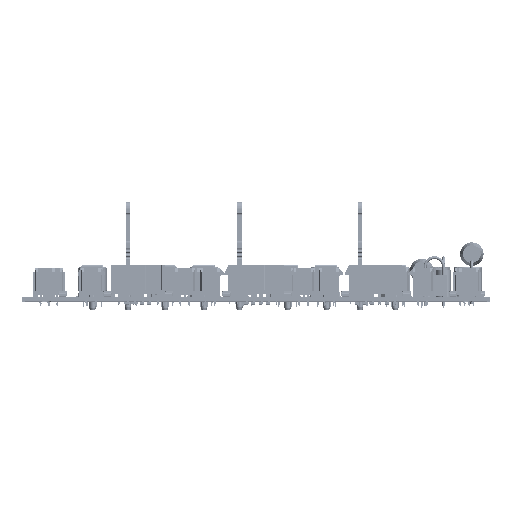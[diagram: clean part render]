
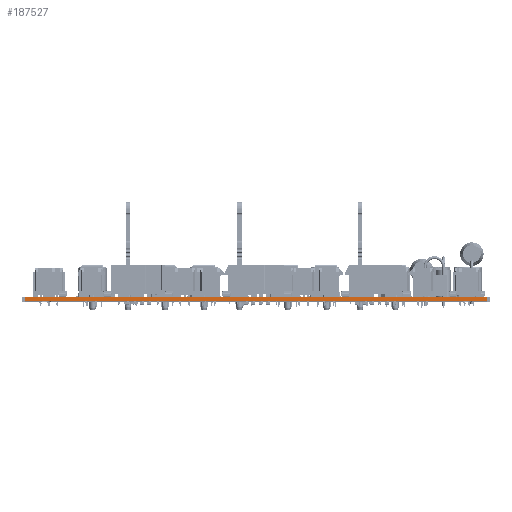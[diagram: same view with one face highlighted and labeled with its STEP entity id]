
A CAD part, top view. The second image highlights one B-rep face of the part: STEP entity #187527.
In plain terms, the highlighted planar face has unit normal (0, 0, 1).
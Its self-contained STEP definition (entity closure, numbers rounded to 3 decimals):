
#7749 = VERTEX_POINT ( 'NONE', #95336 ) ;
#15692 = DIRECTION ( 'NONE',  ( 0., -1., 0. ) ) ;
#18003 = VECTOR ( 'NONE', #143832, 1000. ) ;
#21748 = EDGE_LOOP ( 'NONE', ( #118412, #180969, #189038, #53205 ) ) ;
#24647 = VECTOR ( 'NONE', #81680, 1000. ) ;
#36138 = VECTOR ( 'NONE', #15692, 1000. ) ;
#40260 = CARTESIAN_POINT ( 'NONE',  ( 158.999, 2.58, 0. ) ) ;
#40342 = EDGE_CURVE ( 'NONE', #7749, #59021, #110040, .T. ) ;
#48976 = VERTEX_POINT ( 'NONE', #188314 ) ;
#53205 = ORIENTED_EDGE ( 'NONE', *, *, #102502, .T. ) ;
#59021 = VERTEX_POINT ( 'NONE', #123317 ) ;
#61086 = CARTESIAN_POINT ( 'NONE',  ( 1.001, 2.58, 0. ) ) ;
#64275 = CARTESIAN_POINT ( 'NONE',  ( 1.001, 2.58, 0. ) ) ;
#76264 = DIRECTION ( 'NONE',  ( -1., 0., 0. ) ) ;
#81680 = DIRECTION ( 'NONE',  ( 1., 0., 0. ) ) ;
#82771 = CARTESIAN_POINT ( 'NONE',  ( 1.001, 2.58, 0. ) ) ;
#87469 = EDGE_CURVE ( 'NONE', #48976, #140390, #179305, .T. ) ;
#95336 = CARTESIAN_POINT ( 'NONE',  ( 1.001, 0.98, 0. ) ) ;
#102502 = EDGE_CURVE ( 'NONE', #48976, #7749, #144026, .T. ) ;
#103719 = VECTOR ( 'NONE', #170423, 1000. ) ;
#106513 = CARTESIAN_POINT ( 'NONE',  ( 158.999, 2.58, 0. ) ) ;
#107320 = LINE ( 'NONE', #106513, #36138 ) ;
#110040 = LINE ( 'NONE', #126784, #24647 ) ;
#118412 = ORIENTED_EDGE ( 'NONE', *, *, #40342, .T. ) ;
#123317 = CARTESIAN_POINT ( 'NONE',  ( 158.999, 0.98, 0. ) ) ;
#126611 = FACE_OUTER_BOUND ( 'NONE', #21748, .T. ) ;
#126784 = CARTESIAN_POINT ( 'NONE',  ( 1.001, 0.98, 0. ) ) ;
#129623 = AXIS2_PLACEMENT_3D ( 'NONE', #61086, #167181, #76264 ) ;
#140390 = VERTEX_POINT ( 'NONE', #40260 ) ;
#143832 = DIRECTION ( 'NONE',  ( 1., 0., 0. ) ) ;
#144026 = LINE ( 'NONE', #64275, #103719 ) ;
#167181 = DIRECTION ( 'NONE',  ( 0., 0., -1. ) ) ;
#170423 = DIRECTION ( 'NONE',  ( 0., -1., 0. ) ) ;
#178718 = EDGE_CURVE ( 'NONE', #140390, #59021, #107320, .T. ) ;
#179305 = LINE ( 'NONE', #82771, #18003 ) ;
#180969 = ORIENTED_EDGE ( 'NONE', *, *, #178718, .F. ) ;
#181808 = PLANE ( 'NONE',  #129623 ) ;
#187527 = ADVANCED_FACE ( 'NONE', ( #126611 ), #181808, .F. ) ;
#188314 = CARTESIAN_POINT ( 'NONE',  ( 1.001, 2.58, 0. ) ) ;
#189038 = ORIENTED_EDGE ( 'NONE', *, *, #87469, .F. ) ;
